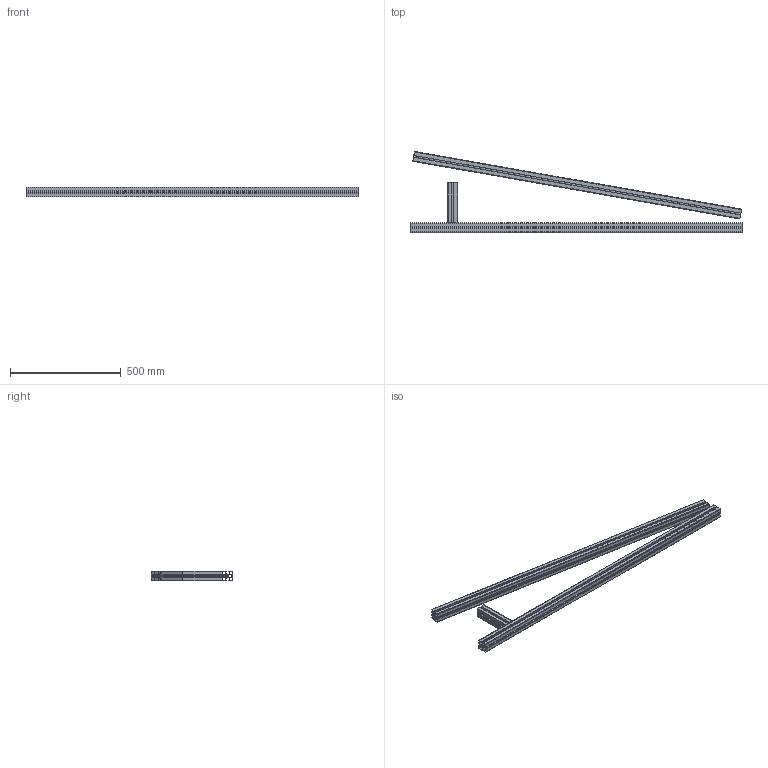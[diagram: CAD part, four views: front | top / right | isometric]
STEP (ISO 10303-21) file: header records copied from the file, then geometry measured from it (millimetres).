
FILE_DESCRIPTION (( 'STEP AP203' ), '1' );
FILE_NAME ('084.106.304.STEP', '2013-01-24T07:27:22', ( 'Alusic' ), ( 'Alusic' ), 'SwSTEP 2.0', 'SolidWorks 2011', '' );
FILE_SCHEMA (( 'CONFIG_CONTROL_DESIGN' ));
Length unit declared in the file: millimetre
Products named in the file (1): 084.106.304
Bounding box: 1500 x 366.51 x 45 mm (x, y, z)
Volume: 1357411.2 mm3; surface area: 1952025.4 mm2
Topology: 3 solids, 3 shells, 443 faces, 1302 edges, 864 vertices
Faces by surface type: plane 241, cylinder 202
Entity records: 14962 total; most frequent: CARTESIAN_POINT 2749, ORIENTED_EDGE 2604, DIRECTION 2532, EDGE_CURVE 1302, VECTOR 902, LINE 902, VERTEX_POINT 864, AXIS2_PLACEMENT_3D 815
